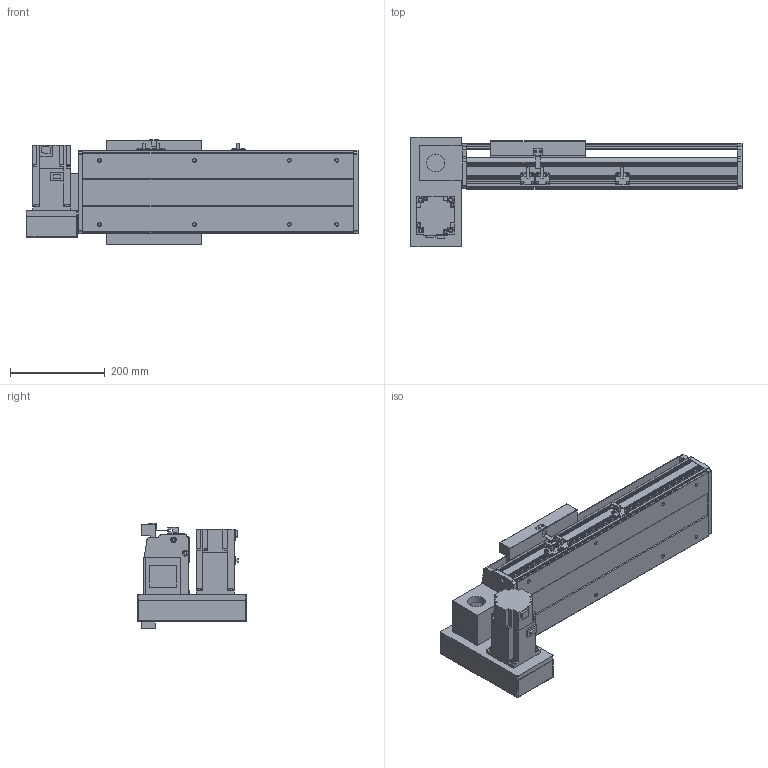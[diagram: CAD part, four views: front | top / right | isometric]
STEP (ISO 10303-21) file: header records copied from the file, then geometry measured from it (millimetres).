
FILE_DESCRIPTION(/* description */ ('STEP AP214'),/* implementation_level */ '2;1');
FILE_NAME(/* name */ 'PBS200-P40-S200-LD-T75-C1-N(0)',/* time_stamp */ '2022-06-11T08:43:10+02:00',/* author */ ('License CC BY-ND 4.0'),/* organization */ ('CADENAS'),/* preprocessor_version */ 'ST-DEVELOPER v18.102',/* originating_system */ 'PARTsolutions',/* authorisation */ ' ');
FILE_SCHEMA (('AUTOMOTIVE_DESIGN {1 0 10303 214 3 1 1}'));
Length unit declared in the file: millimetre
Products named in the file (7): PBS200-P40-S200-LD-T75-C1-N(0); PBS200_sensor; PBS200_plant; PBS200_sliser; T75-p1; PBS200T-LD_motors; PBS200-S200()_body
Assembly tree (8 placements, depth 2):
  PBS200-P40-S200-LD-T75-C1-N(0)
    PBS200_sensor  x3
    PBS200_plant
    PBS200_sliser
    T75-p1
    PBS200T-LD_motors
    PBS200-S200()_body
Bounding box: 700 x 230 x 221 mm (x, y, z)
Volume: 6241595.4 mm3; surface area: 1032009.3 mm2
Topology: 8 solids, 8 shells, 896 faces, 2334 edges, 1524 vertices
Faces by surface type: plane 566, cylinder 290, cone 40
Full cylindrical faces by diameter (mm): 2.459 x6, 3.242 x4, 4.5 x6, 4.917 x4, 5 x6, 6 x7, 6.6 x8, 6.647 x12, 8 x6, 10 x4, 12 x8, 38 x2, 40 x1, 70 x1
Entity records: 24101 total; most frequent: DIRECTION 4231, CARTESIAN_POINT 4120, ORIENTED_EDGE 3934, EDGE_CURVE 1967, AXIS2_PLACEMENT_3D 1459, VERTEX_POINT 1348, LINE 1313, VECTOR 1313
